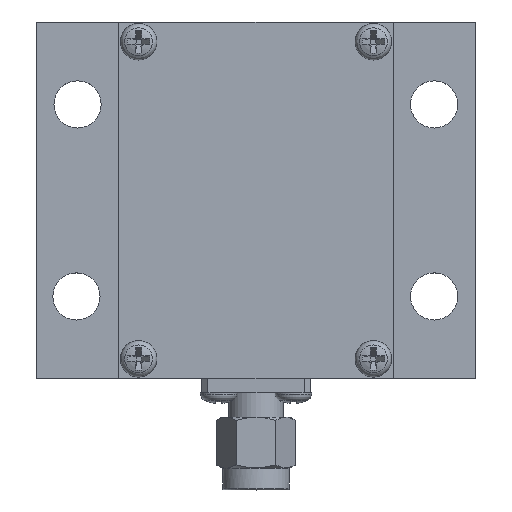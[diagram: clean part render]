
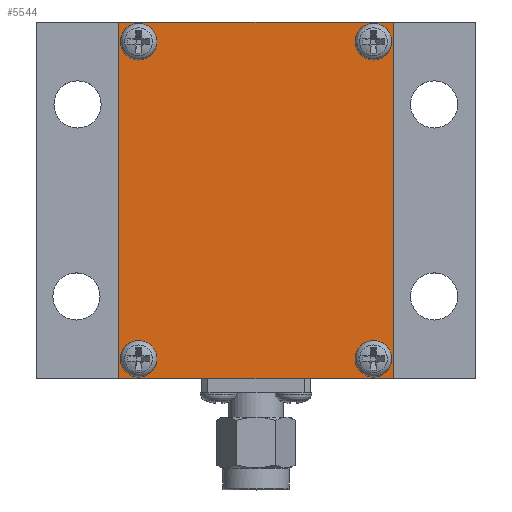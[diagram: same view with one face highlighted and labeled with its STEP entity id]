
A CAD part, top view. The second image highlights one B-rep face of the part: STEP entity #5544.
In plain terms, the highlighted planar face has unit normal (0, 0, 1).
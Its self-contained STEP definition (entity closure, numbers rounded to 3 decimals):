
#209=LINE('',#7358,#443);
#226=LINE('',#7392,#460);
#236=LINE('',#7412,#470);
#237=LINE('',#7414,#471);
#443=VECTOR('',#6108,1000.);
#460=VECTOR('',#6137,1000.);
#470=VECTOR('',#6149,1000.);
#471=VECTOR('',#6152,1000.);
#802=PLANE('',#6057);
#1851=ORIENTED_EDGE('',*,*,#2455,.T.);
#1852=ORIENTED_EDGE('',*,*,#2454,.T.);
#1853=ORIENTED_EDGE('',*,*,#2453,.T.);
#1854=ORIENTED_EDGE('',*,*,#2452,.T.);
#1855=ORIENTED_EDGE('',*,*,#1982,.T.);
#1856=ORIENTED_EDGE('',*,*,#1955,.T.);
#1857=ORIENTED_EDGE('',*,*,#1983,.T.);
#1858=ORIENTED_EDGE('',*,*,#1972,.T.);
#1955=EDGE_CURVE('',#2514,#2516,#209,.T.);
#1972=EDGE_CURVE('',#2528,#2527,#226,.T.);
#1982=EDGE_CURVE('',#2527,#2514,#236,.T.);
#1983=EDGE_CURVE('',#2516,#2528,#237,.T.);
#2452=EDGE_CURVE('',#2865,#2865,#3054,.F.);
#2453=EDGE_CURVE('',#2866,#2866,#3055,.F.);
#2454=EDGE_CURVE('',#2867,#2867,#3056,.F.);
#2455=EDGE_CURVE('',#2868,#2868,#3057,.F.);
#2514=VERTEX_POINT('',#7353);
#2516=VERTEX_POINT('',#7357);
#2527=VERTEX_POINT('',#7391);
#2528=VERTEX_POINT('',#7393);
#2865=VERTEX_POINT('',#8616);
#2866=VERTEX_POINT('',#8619);
#2867=VERTEX_POINT('',#8622);
#2868=VERTEX_POINT('',#8625);
#3054=CIRCLE('',#6026,2.121);
#3055=CIRCLE('',#6028,2.121);
#3056=CIRCLE('',#6030,2.121);
#3057=CIRCLE('',#6032,2.121);
#3346=EDGE_LOOP('',(#1851));
#3347=EDGE_LOOP('',(#1852));
#3348=EDGE_LOOP('',(#1853));
#3349=EDGE_LOOP('',(#1854));
#3350=EDGE_LOOP('',(#1855,#1856,#1857,#1858));
#3642=FACE_BOUND('',#3346,.T.);
#3643=FACE_BOUND('',#3347,.T.);
#3644=FACE_BOUND('',#3348,.T.);
#3645=FACE_BOUND('',#3349,.T.);
#3646=FACE_BOUND('',#3350,.T.);
#5544=ADVANCED_FACE('',(#3642,#3643,#3644,#3645,#3646),#802,.T.);
#6026=AXIS2_PLACEMENT_3D('',#8615,#7195,#7196);
#6028=AXIS2_PLACEMENT_3D('',#8618,#7199,#7200);
#6030=AXIS2_PLACEMENT_3D('',#8621,#7203,#7204);
#6032=AXIS2_PLACEMENT_3D('',#8624,#7207,#7208);
#6057=AXIS2_PLACEMENT_3D('',#8669,#7259,#7260);
#6108=DIRECTION('',(0.,1.,0.));
#6137=DIRECTION('',(0.,-1.,0.));
#6149=DIRECTION('',(1.,0.,0.));
#6152=DIRECTION('',(-1.,0.,0.));
#7195=DIRECTION('',(0.,0.,1.));
#7196=DIRECTION('',(1.,0.,0.));
#7199=DIRECTION('',(0.,0.,1.));
#7200=DIRECTION('',(1.,0.,0.));
#7203=DIRECTION('',(0.,0.,1.));
#7204=DIRECTION('',(1.,0.,0.));
#7207=DIRECTION('',(0.,0.,1.));
#7208=DIRECTION('',(1.,0.,0.));
#7259=DIRECTION('',(0.,0.,1.));
#7260=DIRECTION('',(1.,0.,0.));
#7353=CARTESIAN_POINT('',(15.875,0.,13.894));
#7357=CARTESIAN_POINT('',(15.875,41.275,13.894));
#7358=CARTESIAN_POINT('',(15.875,0.,13.894));
#7391=CARTESIAN_POINT('',(-15.875,0.,13.894));
#7392=CARTESIAN_POINT('',(-15.875,41.275,13.894));
#7393=CARTESIAN_POINT('',(-15.875,41.275,13.894));
#7412=CARTESIAN_POINT('',(-15.875,0.,13.894));
#7414=CARTESIAN_POINT('',(15.875,41.275,13.894));
#8615=CARTESIAN_POINT('',(-13.589,2.286,13.894));
#8616=CARTESIAN_POINT('',(-11.468,2.286,13.894));
#8618=CARTESIAN_POINT('',(13.589,2.286,13.894));
#8619=CARTESIAN_POINT('',(15.71,2.286,13.894));
#8621=CARTESIAN_POINT('',(13.589,38.989,13.894));
#8622=CARTESIAN_POINT('',(15.71,38.989,13.894));
#8624=CARTESIAN_POINT('',(-13.589,38.989,13.894));
#8625=CARTESIAN_POINT('',(-11.468,38.989,13.894));
#8669=CARTESIAN_POINT('',(0.,20.638,13.894));
